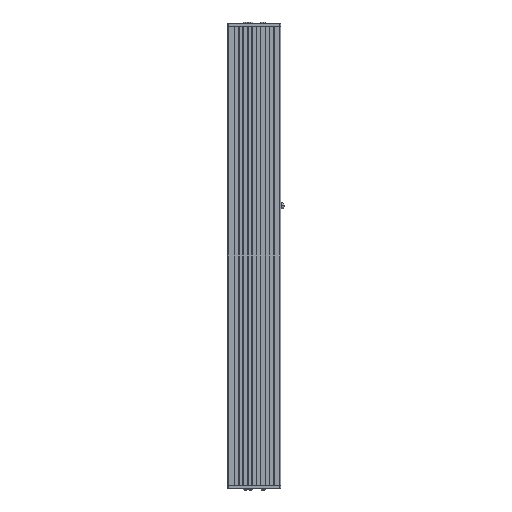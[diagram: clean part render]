
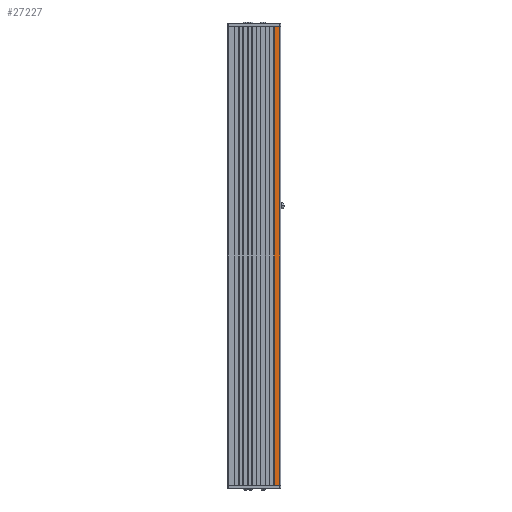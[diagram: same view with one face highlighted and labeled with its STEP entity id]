
A CAD part, front view. The second image highlights one B-rep face of the part: STEP entity #27227.
In plain terms, the highlighted planar face has unit normal (0, -1, 0).
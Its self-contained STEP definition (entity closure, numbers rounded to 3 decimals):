
#61 = VERTEX_POINT ( 'NONE', #12444 ) ;
#65 = VERTEX_POINT ( 'NONE', #12454 ) ;
#163 = VERTEX_POINT ( 'NONE', #27810 ) ;
#207 = VERTEX_POINT ( 'NONE', #27885 ) ;
#7869 = LINE ( 'NONE', #41654, #7871 ) ;
#7871 = VECTOR ( 'NONE', #41655, 1000. ) ;
#12444 = CARTESIAN_POINT ( 'NONE',  ( 66.574, -36.746, 1172. ) ) ;
#12454 = CARTESIAN_POINT ( 'NONE',  ( 66.574, -36.746, 0. ) ) ;
#13322 = EDGE_CURVE ( 'NONE', #163, #207, #21313, .T. ) ;
#13323 = EDGE_CURVE ( 'NONE', #65, #61, #21315, .T. ) ;
#14041 = PLANE ( 'NONE',  #38132 ) ;
#14042 = CARTESIAN_POINT ( 'NONE',  ( 52.074, -36.746, 1172. ) ) ;
#14043 = DIRECTION ( 'NONE',  ( 0., 1., 0. ) ) ;
#14044 = DIRECTION ( 'NONE',  ( 0., 0., 1. ) ) ;
#16719 = LINE ( 'NONE', #27733, #16720 ) ;
#16720 = VECTOR ( 'NONE', #27734, 1000. ) ;
#19003 = FACE_OUTER_BOUND ( 'NONE', #34672, .T. ) ;
#21313 = LINE ( 'NONE', #33188, #21314 ) ;
#21314 = VECTOR ( 'NONE', #33190, 1000. ) ;
#21315 = LINE ( 'NONE', #33193, #21316 ) ;
#21316 = VECTOR ( 'NONE', #33195, 1000. ) ;
#27227 = ADVANCED_FACE ( 'NONE', ( #19003 ), #14041, .F. ) ;
#27733 = CARTESIAN_POINT ( 'NONE',  ( 52.074, -36.746, 1172. ) ) ;
#27734 = DIRECTION ( 'NONE',  ( 1., 0., 0. ) ) ;
#27810 = CARTESIAN_POINT ( 'NONE',  ( 52.074, -36.746, 1172. ) ) ;
#27885 = CARTESIAN_POINT ( 'NONE',  ( 52.074, -36.746, 0. ) ) ;
#31707 = EDGE_CURVE ( 'NONE', #207, #65, #7869, .T. ) ;
#33188 = CARTESIAN_POINT ( 'NONE',  ( 52.074, -36.746, 1172. ) ) ;
#33190 = DIRECTION ( 'NONE',  ( 0., 0., -1. ) ) ;
#33193 = CARTESIAN_POINT ( 'NONE',  ( 66.574, -36.746, 1172. ) ) ;
#33195 = DIRECTION ( 'NONE',  ( 0., 0., 1. ) ) ;
#34672 = EDGE_LOOP ( 'NONE', ( #36457, #36456, #36455, #36454 ) ) ;
#36454 = ORIENTED_EDGE ( 'NONE', *, *, #13322, .T. ) ;
#36455 = ORIENTED_EDGE ( 'NONE', *, *, #39343, .F. ) ;
#36456 = ORIENTED_EDGE ( 'NONE', *, *, #13323, .T. ) ;
#36457 = ORIENTED_EDGE ( 'NONE', *, *, #31707, .T. ) ;
#38132 = AXIS2_PLACEMENT_3D ( 'NONE', #14042, #14043, #14044 ) ;
#39343 = EDGE_CURVE ( 'NONE', #163, #61, #16719, .T. ) ;
#41654 = CARTESIAN_POINT ( 'NONE',  ( 52.074, -36.746, 0. ) ) ;
#41655 = DIRECTION ( 'NONE',  ( 1., 0., 0. ) ) ;
